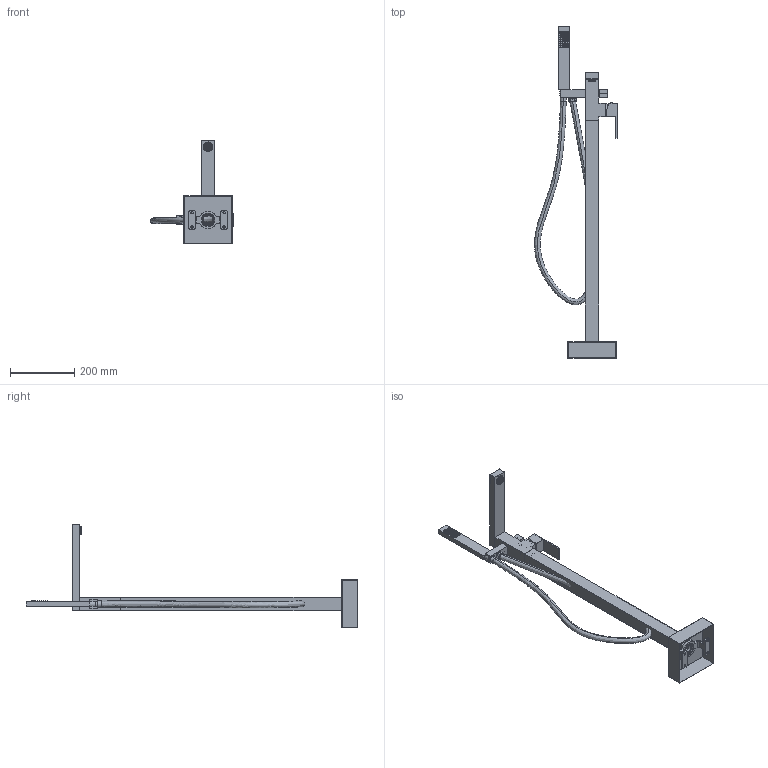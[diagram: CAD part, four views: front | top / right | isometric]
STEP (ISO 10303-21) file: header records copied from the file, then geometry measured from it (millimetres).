
FILE_DESCRIPTION (( 'STEP AP214' ), '1' );
FILE_NAME ('9118.STEP', '2020-02-06T06:13:52', ( '微软用户' ), ( '微软中国' ), 'SwSTEP 2.0', 'SolidWorks 2014', '' );
FILE_SCHEMA (( 'AUTOMOTIVE_DESIGN' ));
Length unit declared in the file: millimetre
Products named in the file (24): 24厙郋; 9121擋諉挴; 9102擋; 8702花洒; 色钮(全白); 706忒梟(110); M32X1.25装饰杯（塑料）; M37X1.25两级压盖（新）; D35P; 9111揤裔14; 煦阨棟郋21; 9111忒謫(蜊)14; 9111侐源菁髓; 9111嘐隅杶; 9111菁諉挴; 9118花洒管; 9111諉杶; 9111縐蛈; 9111眻奪; 9111翋极(翉婖); 9111奪諉挴; M24X1两级网嘴胶圈; 24厙郲杶; 9118
Assembly tree (23 placements, depth 2):
  9118
    9111奪諉挴
    9111眻奪
    9111諉杶
    9111菁諉挴
    9111嘐隅杶
    9111侐源菁髓
    9111忒謫(蜊)14
    煦阨棟郋21
    9111揤裔14
    D35P
    M37X1.25两级压盖（新）
    M32X1.25装饰杯（塑料）
    706忒梟(110)
    色钮(全白)
    8702花洒
    9102擋
    9121擋諉挴
    24厙郋
    24厙郲杶
    M24X1两级网嘴胶圈
    9111翋极(翉婖)
    9111縐蛈
    9118花洒管
Bounding box: 258.24 x 1034.5 x 324 mm (x, y, z)
Volume: 996944 mm3; surface area: 666440.2 mm2
Topology: 22 solids, 25 shells, 3682 faces, 12647 edges, 8310 vertices
Faces by surface type: plane 1951, cylinder 1421, cone 164, torus 117, bspline 25, sphere 4
Entity records: 175330 total; most frequent: CARTESIAN_POINT 67378, ORIENTED_EDGE 25232, DIRECTION 19043, EDGE_CURVE 12618, VERTEX_POINT 8298, AXIS2_PLACEMENT_3D 6494, LINE 6055, VECTOR 6055
